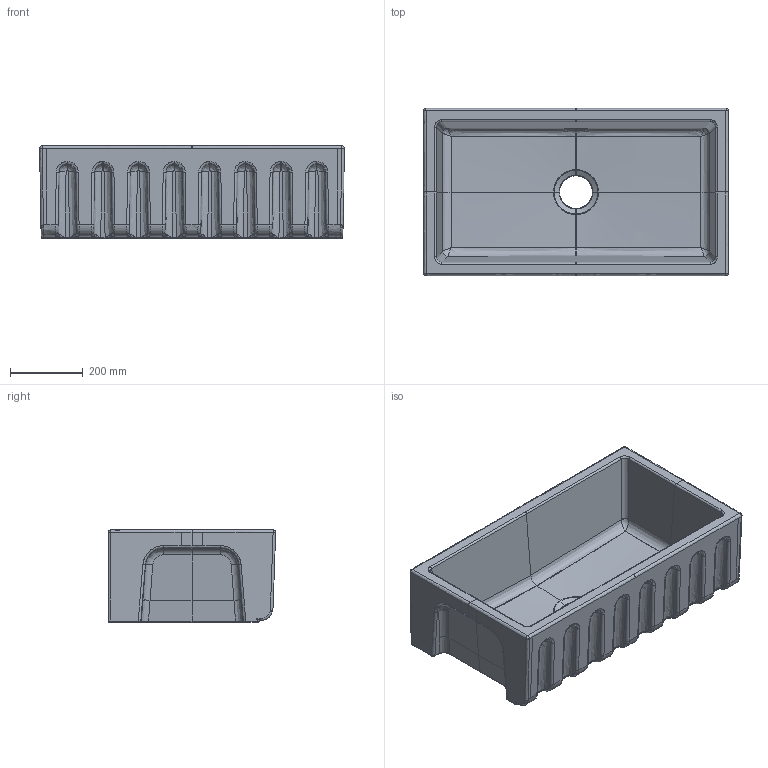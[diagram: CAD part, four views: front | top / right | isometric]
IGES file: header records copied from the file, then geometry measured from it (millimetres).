
Start section: START RECORD GO HERE.
Global section: file name: 5131_3D.igs; native system: DASSAULT SYSTEMES CATIA V5 R19 - www.3ds.com; preprocessor: CATIA Version 5 Release 19 SP 5 ; author: gioge; organization: LAPTOP-G94B6G74; date: 20201024.100448; units: millimetre
Bounding box: 838.15 x 460.01 x 254 mm (x, y, z)
Surface area: 1934034.9 mm2 (no closed solid volume)
Topology: 0 solids, 0 shells, 682 faces, 3147 edges, 3128 vertices
Faces by surface type: bspline 384, revolution 236, plane 62
